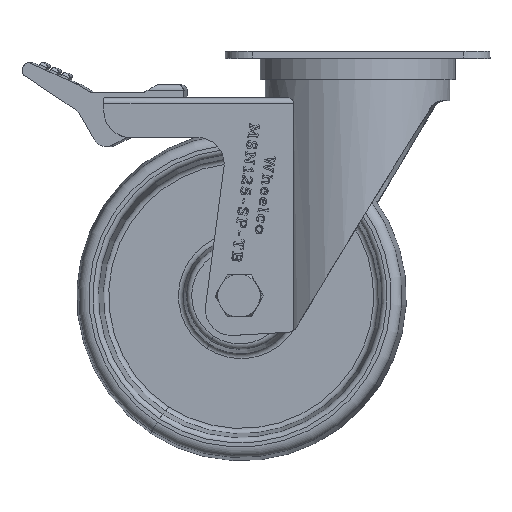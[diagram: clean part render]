
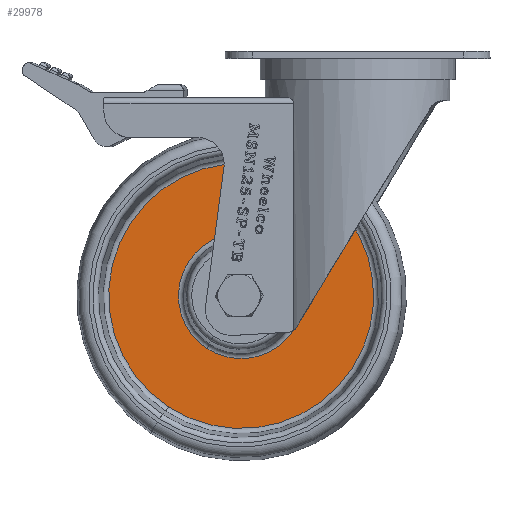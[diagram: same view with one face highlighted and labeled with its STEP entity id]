
A CAD part, top view. The second image highlights one B-rep face of the part: STEP entity #29978.
In plain terms, the highlighted planar face has unit normal (-0.031, 0, 1) as drawn and (0, 1, 0) by its records, which use the part's own axes.
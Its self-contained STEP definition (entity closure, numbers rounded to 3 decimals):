
#739 = AXIS2_PLACEMENT_3D ( 'NONE', #5652, #19352, #30213 ) ;
#2137 = EDGE_CURVE ( 'NONE', #22453, #2492, #28808, .T. ) ;
#2492 = VERTEX_POINT ( 'NONE', #25410 ) ;
#2785 = PLANE ( 'NONE',  #30321 ) ;
#2956 = DIRECTION ( 'NONE',  ( 0., 1., 0. ) ) ;
#3568 = CARTESIAN_POINT ( 'NONE',  ( 0., 5., -23.778 ) ) ;
#4340 = ORIENTED_EDGE ( 'NONE', *, *, #16336, .T. ) ;
#5652 = CARTESIAN_POINT ( 'NONE',  ( 0., 5., 0. ) ) ;
#7389 = CARTESIAN_POINT ( 'NONE',  ( 0., 5., 0. ) ) ;
#7674 = EDGE_LOOP ( 'NONE', ( #12456, #31672 ) ) ;
#7695 = EDGE_CURVE ( 'NONE', #20991, #8807, #29666, .T. ) ;
#7922 = DIRECTION ( 'NONE',  ( 0., 0., -1. ) ) ;
#8807 = VERTEX_POINT ( 'NONE', #23684 ) ;
#10019 = AXIS2_PLACEMENT_3D ( 'NONE', #15455, #20990, #23835 ) ;
#11570 = CIRCLE ( 'NONE', #739, 50.249 ) ;
#12456 = ORIENTED_EDGE ( 'NONE', *, *, #7695, .F. ) ;
#12737 = CARTESIAN_POINT ( 'NONE',  ( 0., 5., -50.249 ) ) ;
#13656 = DIRECTION ( 'NONE',  ( 0., 0., 1. ) ) ;
#13719 = ORIENTED_EDGE ( 'NONE', *, *, #2137, .T. ) ;
#13866 = EDGE_CURVE ( 'NONE', #8807, #20991, #11570, .T. ) ;
#14012 = AXIS2_PLACEMENT_3D ( 'NONE', #7389, #21260, #7922 ) ;
#15455 = CARTESIAN_POINT ( 'NONE',  ( 0., 5., 0. ) ) ;
#16336 = EDGE_CURVE ( 'NONE', #2492, #22453, #20857, .T. ) ;
#19352 = DIRECTION ( 'NONE',  ( 0., -1., 0. ) ) ;
#20857 = CIRCLE ( 'NONE', #14012, 23.778 ) ;
#20990 = DIRECTION ( 'NONE',  ( 0., -1., 0. ) ) ;
#20991 = VERTEX_POINT ( 'NONE', #12737 ) ;
#21115 = AXIS2_PLACEMENT_3D ( 'NONE', #21827, #30020, #22002 ) ;
#21260 = DIRECTION ( 'NONE',  ( 0., -1., 0. ) ) ;
#21827 = CARTESIAN_POINT ( 'NONE',  ( 0., 5., 0. ) ) ;
#22002 = DIRECTION ( 'NONE',  ( 0., 0., -1. ) ) ;
#22453 = VERTEX_POINT ( 'NONE', #3568 ) ;
#23684 = CARTESIAN_POINT ( 'NONE',  ( 0., 5., 50.249 ) ) ;
#23835 = DIRECTION ( 'NONE',  ( 0., 0., -1. ) ) ;
#25410 = CARTESIAN_POINT ( 'NONE',  ( 0., 5., 23.778 ) ) ;
#27030 = FACE_BOUND ( 'NONE', #30834, .T. ) ;
#27374 = FACE_OUTER_BOUND ( 'NONE', #7674, .T. ) ;
#28808 = CIRCLE ( 'NONE', #10019, 23.778 ) ;
#29666 = CIRCLE ( 'NONE', #21115, 50.249 ) ;
#29898 = CARTESIAN_POINT ( 'NONE',  ( 23.778, 5., 0. ) ) ;
#29978 = ADVANCED_FACE ( 'NONE', ( #27030, #27374 ), #2785, .T. ) ;
#30020 = DIRECTION ( 'NONE',  ( 0., -1., 0. ) ) ;
#30213 = DIRECTION ( 'NONE',  ( 0., 0., -1. ) ) ;
#30321 = AXIS2_PLACEMENT_3D ( 'NONE', #29898, #2956, #13656 ) ;
#30834 = EDGE_LOOP ( 'NONE', ( #13719, #4340 ) ) ;
#31672 = ORIENTED_EDGE ( 'NONE', *, *, #13866, .F. ) ;
